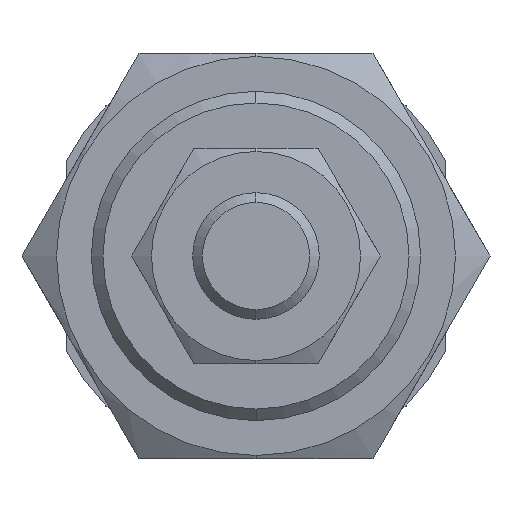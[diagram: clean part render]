
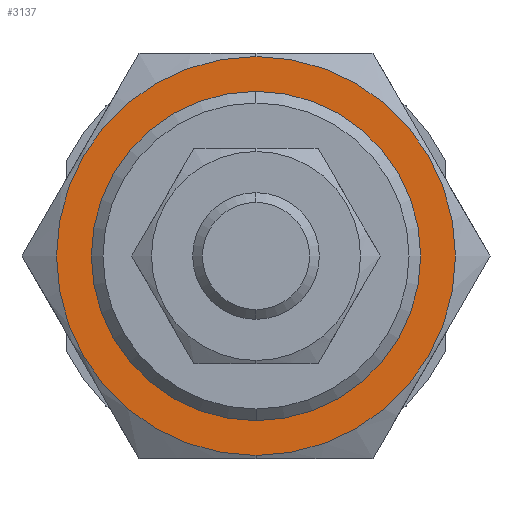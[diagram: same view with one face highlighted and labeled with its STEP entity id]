
A CAD part, left-side view. The second image highlights one B-rep face of the part: STEP entity #3137.
In plain terms, the highlighted planar face has unit normal (-1, 0, 0).
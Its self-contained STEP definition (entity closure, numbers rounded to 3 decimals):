
#95 = EDGE_CURVE ( 'NONE', #2188, #3751, #5074, .T. ) ;
#151 = DIRECTION ( 'NONE',  ( 0., 0., -1. ) ) ;
#152 = CARTESIAN_POINT ( 'NONE',  ( -11., 0., 0. ) ) ;
#596 = VERTEX_POINT ( 'NONE', #1764 ) ;
#630 = CIRCLE ( 'NONE', #1415, 13. ) ;
#707 = ORIENTED_EDGE ( 'NONE', *, *, #4662, .T. ) ;
#873 = AXIS2_PLACEMENT_3D ( 'NONE', #3098, #2302, #151 ) ;
#886 = DIRECTION ( 'NONE',  ( 0., 1., 0. ) ) ;
#982 = AXIS2_PLACEMENT_3D ( 'NONE', #4597, #4274, #4704 ) ;
#1415 = AXIS2_PLACEMENT_3D ( 'NONE', #4018, #3616, #5267 ) ;
#1570 = CARTESIAN_POINT ( 'NONE',  ( -11., 0., 15.75 ) ) ;
#1707 = EDGE_CURVE ( 'NONE', #3751, #2188, #4160, .T. ) ;
#1745 = DIRECTION ( 'NONE',  ( 1., 0., 0. ) ) ;
#1764 = CARTESIAN_POINT ( 'NONE',  ( -11., 0., -13. ) ) ;
#2153 = CARTESIAN_POINT ( 'NONE',  ( -11., 0., 0. ) ) ;
#2160 = ORIENTED_EDGE ( 'NONE', *, *, #3643, .T. ) ;
#2188 = VERTEX_POINT ( 'NONE', #1570 ) ;
#2302 = DIRECTION ( 'NONE',  ( 1., 0., 0. ) ) ;
#2519 = PLANE ( 'NONE',  #4602 ) ;
#2712 = CARTESIAN_POINT ( 'NONE',  ( -11., 0., 13. ) ) ;
#3098 = CARTESIAN_POINT ( 'NONE',  ( -11., 0., 0. ) ) ;
#3101 = CARTESIAN_POINT ( 'NONE',  ( -11., 0., -15.75 ) ) ;
#3118 = DIRECTION ( 'NONE',  ( 0., 0., -1. ) ) ;
#3128 = ORIENTED_EDGE ( 'NONE', *, *, #95, .F. ) ;
#3137 = ADVANCED_FACE ( 'NONE', ( #4138, #3299 ), #2519, .F. ) ;
#3299 = FACE_BOUND ( 'NONE', #4230, .T. ) ;
#3616 = DIRECTION ( 'NONE',  ( 1., 0., 0. ) ) ;
#3643 = EDGE_CURVE ( 'NONE', #5122, #596, #630, .T. ) ;
#3751 = VERTEX_POINT ( 'NONE', #3101 ) ;
#3962 = DIRECTION ( 'NONE',  ( 1., 0., 0. ) ) ;
#4018 = CARTESIAN_POINT ( 'NONE',  ( -11., 0., 0. ) ) ;
#4094 = CIRCLE ( 'NONE', #982, 13. ) ;
#4138 = FACE_OUTER_BOUND ( 'NONE', #4510, .T. ) ;
#4160 = CIRCLE ( 'NONE', #873, 15.75 ) ;
#4200 = AXIS2_PLACEMENT_3D ( 'NONE', #152, #3962, #3118 ) ;
#4230 = EDGE_LOOP ( 'NONE', ( #2160, #707 ) ) ;
#4274 = DIRECTION ( 'NONE',  ( 1., 0., 0. ) ) ;
#4357 = ORIENTED_EDGE ( 'NONE', *, *, #1707, .F. ) ;
#4510 = EDGE_LOOP ( 'NONE', ( #4357, #3128 ) ) ;
#4597 = CARTESIAN_POINT ( 'NONE',  ( -11., 0., 0. ) ) ;
#4602 = AXIS2_PLACEMENT_3D ( 'NONE', #2153, #1745, #886 ) ;
#4662 = EDGE_CURVE ( 'NONE', #596, #5122, #4094, .T. ) ;
#4704 = DIRECTION ( 'NONE',  ( 0., 0., -1. ) ) ;
#5074 = CIRCLE ( 'NONE', #4200, 15.75 ) ;
#5122 = VERTEX_POINT ( 'NONE', #2712 ) ;
#5267 = DIRECTION ( 'NONE',  ( 0., 0., -1. ) ) ;
